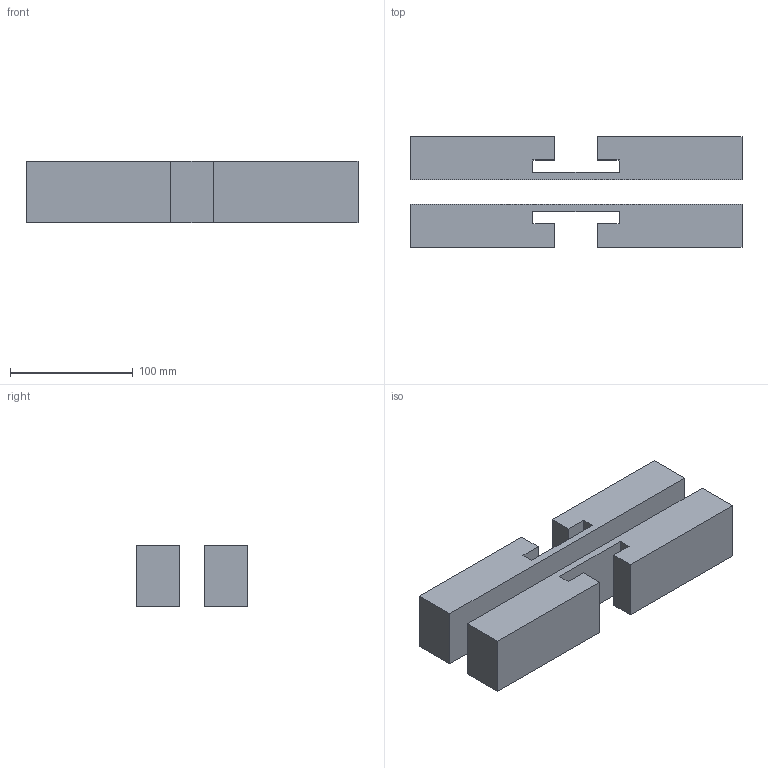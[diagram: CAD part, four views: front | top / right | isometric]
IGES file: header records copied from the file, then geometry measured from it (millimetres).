
Start section: SolidWorks IGES file using analytic representation for surfaces
Global section: file name: C:\Documents and Settings\URETIM3\Desktop\yeni katalog tolgay düzenli\E kataloðu\DOÐRUSAL YATAKLAR (863 SERÝSÝ)\202 863 254.IGS; native system: SolidWorks 2006 by SolidWorks Corporation; preprocessor: SolidWorks 2006 by SolidWorks Corporation; author: URETIM3; date: 060912.183047; units: millimetre
Bounding box: 270 x 90 x 50 mm (x, y, z)
Surface area: 106140 mm2 (no closed solid volume)
Topology: 0 solids, 0 shells, 28 faces, 144 edges, 144 vertices
Faces by surface type: bspline 28
